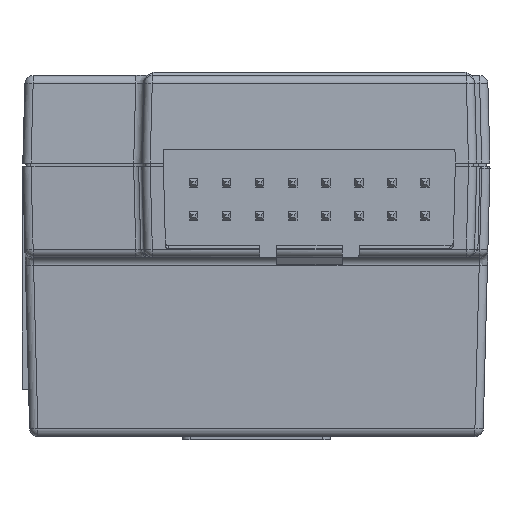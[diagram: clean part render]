
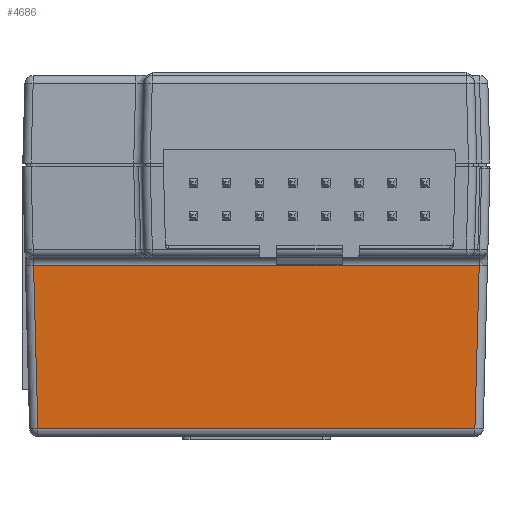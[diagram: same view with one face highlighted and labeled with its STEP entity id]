
A CAD part, front view. The second image highlights one B-rep face of the part: STEP entity #4686.
In plain terms, the highlighted planar face has unit normal (0, -1, -0.026).
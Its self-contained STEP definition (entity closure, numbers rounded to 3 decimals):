
#4 = CARTESIAN_POINT ( 'NONE',  ( -10.334, 1.331, -13.987 ) ) ;
#1590 = ORIENTED_EDGE ( 'NONE', *, *, #14729, .T. ) ;
#2174 = VECTOR ( 'NONE', #16150, 1000. ) ;
#4151 = VECTOR ( 'NONE', #16030, 1000. ) ;
#4686 = ADVANCED_FACE ( 'NONE', ( #13595 ), #5125, .F. ) ;
#4723 = EDGE_LOOP ( 'NONE', ( #8691, #8627, #10882, #1590 ) ) ;
#4982 = CARTESIAN_POINT ( 'NONE',  ( -10.562, 1.071, -4.089 ) ) ;
#5125 = PLANE ( 'NONE',  #8644 ) ;
#5690 = VERTEX_POINT ( 'NONE', #9300 ) ;
#5970 = LINE ( 'NONE', #14742, #2174 ) ;
#6101 = CARTESIAN_POINT ( 'NONE',  ( -37.251, 1.369, -15.454 ) ) ;
#6202 = DIRECTION ( 'NONE',  ( -1., 0., 0. ) ) ;
#6554 = DIRECTION ( 'NONE',  ( 0., 0.026, -1. ) ) ;
#7919 = LINE ( 'NONE', #6101, #4151 ) ;
#8627 = ORIENTED_EDGE ( 'NONE', *, *, #12810, .T. ) ;
#8644 = AXIS2_PLACEMENT_3D ( 'NONE', #10801, #15077, #6554 ) ;
#8691 = ORIENTED_EDGE ( 'NONE', *, *, #11364, .T. ) ;
#8800 = VERTEX_POINT ( 'NONE', #15814 ) ;
#9300 = CARTESIAN_POINT ( 'NONE',  ( -37.289, 1.331, -13.987 ) ) ;
#9926 = DIRECTION ( 'NONE',  ( 1., 0., 0. ) ) ;
#10499 = CARTESIAN_POINT ( 'NONE',  ( -38.061, 1.072, -4.089 ) ) ;
#10801 = CARTESIAN_POINT ( 'NONE',  ( -4.671, 1.347, -14.602 ) ) ;
#10882 = ORIENTED_EDGE ( 'NONE', *, *, #12339, .T. ) ;
#11364 = EDGE_CURVE ( 'NONE', #8800, #11433, #5970, .T. ) ;
#11433 = VERTEX_POINT ( 'NONE', #4982 ) ;
#11686 = LINE ( 'NONE', #10499, #12126 ) ;
#12126 = VECTOR ( 'NONE', #6202, 1000. ) ;
#12339 = EDGE_CURVE ( 'NONE', #13051, #5690, #7919, .T. ) ;
#12486 = CARTESIAN_POINT ( 'NONE',  ( -37.548, 1.072, -4.089 ) ) ;
#12810 = EDGE_CURVE ( 'NONE', #11433, #13051, #11686, .T. ) ;
#13051 = VERTEX_POINT ( 'NONE', #12486 ) ;
#13595 = FACE_OUTER_BOUND ( 'NONE', #4723, .T. ) ;
#14729 = EDGE_CURVE ( 'NONE', #5690, #8800, #16925, .T. ) ;
#14742 = CARTESIAN_POINT ( 'NONE',  ( -10.833, 1.343, -14.44 ) ) ;
#15077 = DIRECTION ( 'NONE',  ( 0., 1., 0.026 ) ) ;
#15814 = CARTESIAN_POINT ( 'NONE',  ( -10.821, 1.331, -13.987 ) ) ;
#16030 = DIRECTION ( 'NONE',  ( 0.026, 0.026, -0.999 ) ) ;
#16150 = DIRECTION ( 'NONE',  ( 0.026, -0.026, 0.999 ) ) ;
#16467 = VECTOR ( 'NONE', #9926, 1000. ) ;
#16925 = LINE ( 'NONE', #4, #16467 ) ;
